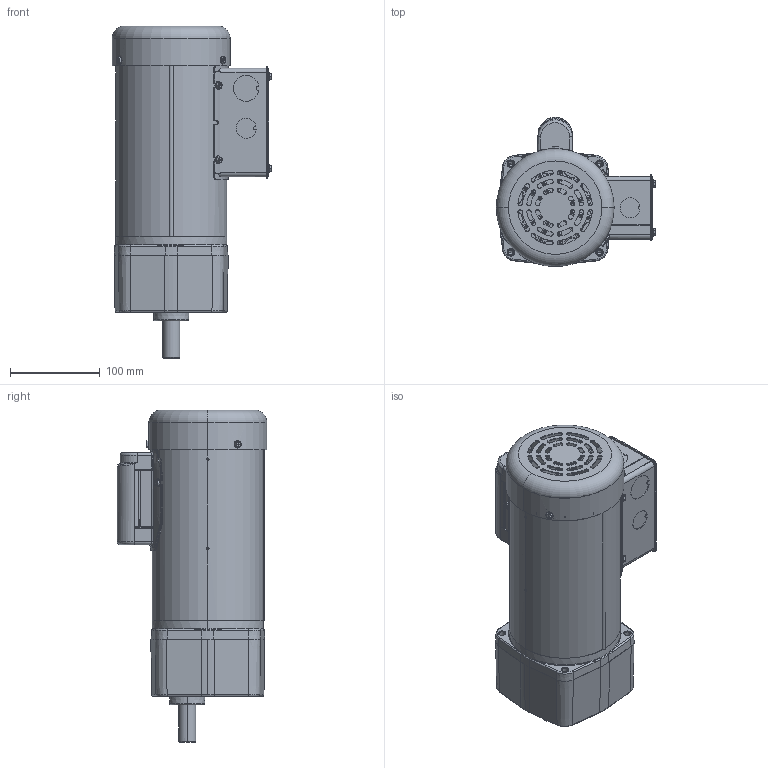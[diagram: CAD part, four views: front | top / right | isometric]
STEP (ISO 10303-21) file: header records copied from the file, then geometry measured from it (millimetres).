
FILE_DESCRIPTION (( 'STEP AP203' ), '1' );
FILE_NAME ('027813-096051_Rev0.STEP', '2017-08-07T10:50:40', ( 'admin' ), ( '' ), 'SwSTEP 2.0', 'SolidWorks 2015', '' );
FILE_SCHEMA (( 'CONFIG_CONTROL_DESIGN' ));
Length unit declared in the file: inch
Products named in the file (1): 027813-096051_Rev0
Bounding box: 177.39 x 166.29 x 369.16 mm (x, y, z)
Volume: 922008 mm3; surface area: 587135 mm2
Topology: 32 solids, 32 shells, 3812 faces, 9288 edges, 5513 vertices
Faces by surface type: bspline 1008, plane 969, cylinder 967, cone 418, torus 370, sphere 80
Entity records: 150122 total; most frequent: CARTESIAN_POINT 68920, ORIENTED_EDGE 18268, DIRECTION 15372, EDGE_CURVE 9134, AXIS2_PLACEMENT_3D 6301, VERTEX_POINT 5503, EDGE_LOOP 4077, FACE_OUTER_BOUND 3812
